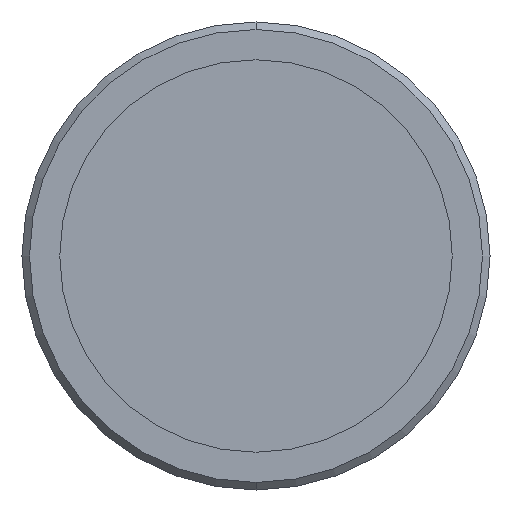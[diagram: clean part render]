
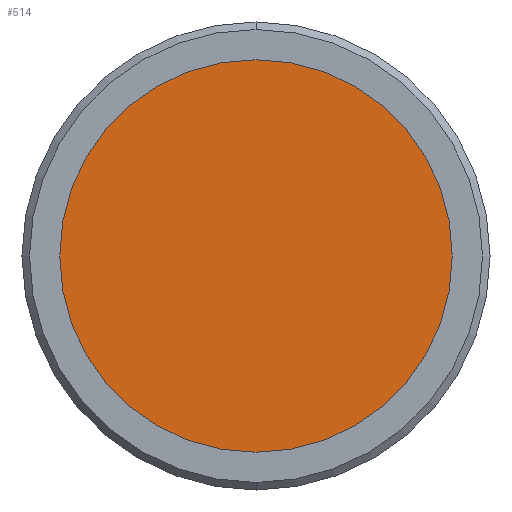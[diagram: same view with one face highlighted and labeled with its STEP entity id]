
A CAD part, front view. The second image highlights one B-rep face of the part: STEP entity #514.
In plain terms, the highlighted planar face has unit normal (0, -1, 0).
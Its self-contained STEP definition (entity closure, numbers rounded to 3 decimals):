
#12 = CARTESIAN_POINT ( 'NONE',  ( 0., -9., 0. ) ) ;
#34 = EDGE_CURVE ( 'NONE', #576, #414, #1115, .T. ) ;
#71 = DIRECTION ( 'NONE',  ( 0., 0., -1. ) ) ;
#92 = DIRECTION ( 'NONE',  ( 0., -1., 0. ) ) ;
#110 = ORIENTED_EDGE ( 'NONE', *, *, #34, .F. ) ;
#114 = DIRECTION ( 'NONE',  ( 0., 0., 1. ) ) ;
#199 = DIRECTION ( 'NONE',  ( 0., 1., 0. ) ) ;
#414 = VERTEX_POINT ( 'NONE', #558 ) ;
#458 = AXIS2_PLACEMENT_3D ( 'NONE', #1035, #1042, #1101 ) ;
#491 = ORIENTED_EDGE ( 'NONE', *, *, #675, .F. ) ;
#514 = ADVANCED_FACE ( 'NONE', ( #799 ), #1087, .T. ) ;
#558 = CARTESIAN_POINT ( 'NONE',  ( 0., -9., 13. ) ) ;
#576 = VERTEX_POINT ( 'NONE', #717 ) ;
#675 = EDGE_CURVE ( 'NONE', #414, #576, #885, .T. ) ;
#717 = CARTESIAN_POINT ( 'NONE',  ( 0., -9., -13. ) ) ;
#753 = EDGE_LOOP ( 'NONE', ( #491, #110 ) ) ;
#785 = AXIS2_PLACEMENT_3D ( 'NONE', #12, #199, #114 ) ;
#799 = FACE_OUTER_BOUND ( 'NONE', #753, .T. ) ;
#885 = CIRCLE ( 'NONE', #458, 13. ) ;
#913 = AXIS2_PLACEMENT_3D ( 'NONE', #1111, #92, #71 ) ;
#1035 = CARTESIAN_POINT ( 'NONE',  ( 0., -9., 0. ) ) ;
#1042 = DIRECTION ( 'NONE',  ( 0., 1., 0. ) ) ;
#1087 = PLANE ( 'NONE',  #913 ) ;
#1101 = DIRECTION ( 'NONE',  ( 0., 0., 1. ) ) ;
#1111 = CARTESIAN_POINT ( 'NONE',  ( 0., -9., 0. ) ) ;
#1115 = CIRCLE ( 'NONE', #785, 13. ) ;
